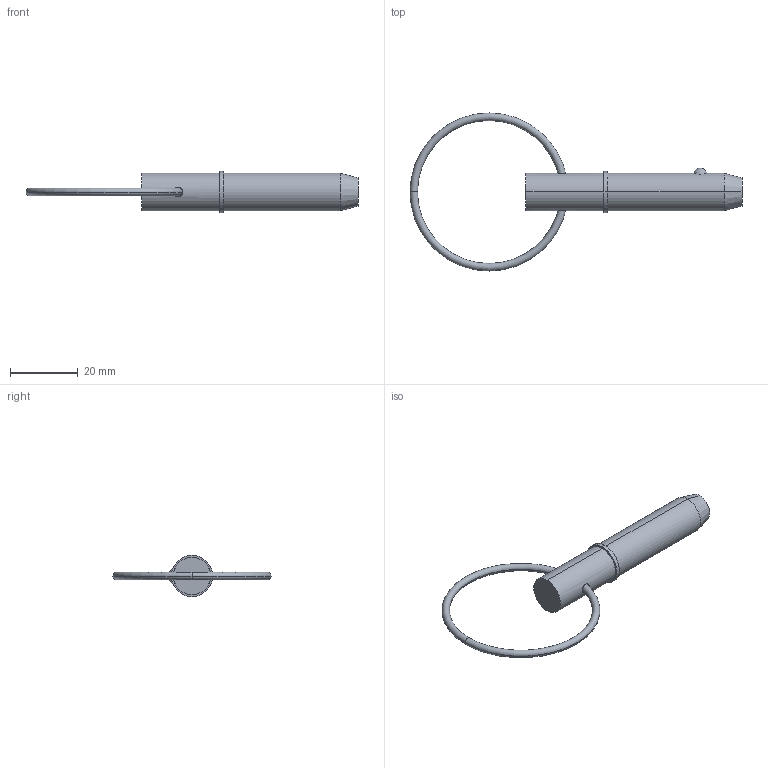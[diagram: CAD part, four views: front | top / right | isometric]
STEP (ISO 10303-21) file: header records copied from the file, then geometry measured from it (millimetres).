
FILE_DESCRIPTION (( 'STEP AP203' ), '1' );
FILE_NAME ('33014.W4310.step', '2024-11-04T08:27:57', ( '' ), ( '' ), 'SwSTEP 2.0', 'SolidWorks 2019', '' );
FILE_SCHEMA (( 'CONFIG_CONTROL_DESIGN' ));
Length unit declared in the file: millimetre
Products named in the file (3): 33014.W4310; Part2_33014.W4310; Part1_33014.W4310
Assembly tree (2 placements, depth 2):
  33014.W4310
    Part1_33014.W4310
    Part2_33014.W4310
Bounding box: 98.02 x 46.67 x 12.22 mm (x, y, z)
Volume: 6578.4 mm3; surface area: 3473.2 mm2
Topology: 2 solids, 2 shells, 22 faces, 43 edges, 26 vertices
Faces by surface type: torus 8, cylinder 6, plane 4, sphere 2, cone 2
Entity records: 1023 total; most frequent: CARTESIAN_POINT 246, DIRECTION 120, ORIENTED_EDGE 86, AXIS2_PLACEMENT_3D 56, EDGE_CURVE 43, CIRCLE 29, EDGE_LOOP 27, VERTEX_POINT 26
